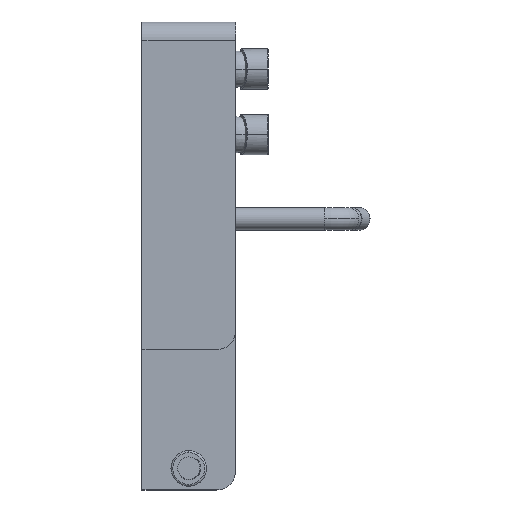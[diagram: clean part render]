
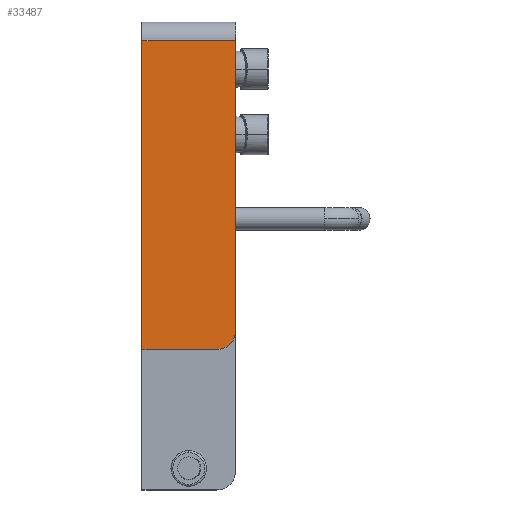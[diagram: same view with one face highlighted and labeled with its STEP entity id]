
A CAD part, top view. The second image highlights one B-rep face of the part: STEP entity #33487.
In plain terms, the highlighted planar face has unit normal (0, 0, 1).
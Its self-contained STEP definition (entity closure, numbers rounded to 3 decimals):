
#30 = DIRECTION ( 'NONE',  ( 1., 0., 0. ) ) ;
#692 = DIRECTION ( 'NONE',  ( 1., 0., 0. ) ) ;
#1217 = CARTESIAN_POINT ( 'NONE',  ( -50., -350., 35. ) ) ;
#1536 = FACE_OUTER_BOUND ( 'NONE', #17699, .T. ) ;
#3485 = CARTESIAN_POINT ( 'NONE',  ( -50., -20., 35. ) ) ;
#4507 = CARTESIAN_POINT ( 'NONE',  ( 50., -20., 35. ) ) ;
#5009 = LINE ( 'NONE', #5375, #24676 ) ;
#5375 = CARTESIAN_POINT ( 'NONE',  ( 50., -20., 35. ) ) ;
#7158 = CARTESIAN_POINT ( 'NONE',  ( 30., -350., 35. ) ) ;
#7424 = CARTESIAN_POINT ( 'NONE',  ( -50., -350., 35. ) ) ;
#9396 = ORIENTED_EDGE ( 'NONE', *, *, #30494, .F. ) ;
#9942 = LINE ( 'NONE', #3485, #46928 ) ;
#11235 = ORIENTED_EDGE ( 'NONE', *, *, #31775, .F. ) ;
#11692 = EDGE_CURVE ( 'NONE', #38642, #20025, #5009, .T. ) ;
#12085 = CARTESIAN_POINT ( 'NONE',  ( -50., -20., 35. ) ) ;
#12400 = ORIENTED_EDGE ( 'NONE', *, *, #13029, .T. ) ;
#13029 = EDGE_CURVE ( 'NONE', #13346, #15686, #23572, .T. ) ;
#13346 = VERTEX_POINT ( 'NONE', #1217 ) ;
#14325 = VECTOR ( 'NONE', #692, 1000. ) ;
#15686 = VERTEX_POINT ( 'NONE', #7158 ) ;
#15801 = DIRECTION ( 'NONE',  ( 1., 0., 0. ) ) ;
#17098 = VERTEX_POINT ( 'NONE', #43267 ) ;
#17699 = EDGE_LOOP ( 'NONE', ( #11235, #25872, #9396, #23182, #12400 ) ) ;
#17760 = CIRCLE ( 'NONE', #38929, 20. ) ;
#17824 = CARTESIAN_POINT ( 'NONE',  ( 30., -330., 35. ) ) ;
#17972 = AXIS2_PLACEMENT_3D ( 'NONE', #12085, #37926, #15801 ) ;
#20025 = VERTEX_POINT ( 'NONE', #46574 ) ;
#21540 = DIRECTION ( 'NONE',  ( 0., -1., 0. ) ) ;
#22285 = PLANE ( 'NONE',  #17972 ) ;
#23182 = ORIENTED_EDGE ( 'NONE', *, *, #44516, .T. ) ;
#23572 = LINE ( 'NONE', #7424, #44385 ) ;
#24676 = VECTOR ( 'NONE', #31230, 1000. ) ;
#25872 = ORIENTED_EDGE ( 'NONE', *, *, #11692, .F. ) ;
#30494 = EDGE_CURVE ( 'NONE', #17098, #38642, #42613, .T. ) ;
#30542 = CARTESIAN_POINT ( 'NONE',  ( -50., -20., 35. ) ) ;
#31230 = DIRECTION ( 'NONE',  ( 0., -1., 0. ) ) ;
#31775 = EDGE_CURVE ( 'NONE', #20025, #15686, #17760, .T. ) ;
#33487 = ADVANCED_FACE ( 'NONE', ( #1536 ), #22285, .T. ) ;
#37926 = DIRECTION ( 'NONE',  ( 0., 0., 1. ) ) ;
#38642 = VERTEX_POINT ( 'NONE', #4507 ) ;
#38929 = AXIS2_PLACEMENT_3D ( 'NONE', #17824, #43632, #21540 ) ;
#40321 = DIRECTION ( 'NONE',  ( 0., -1., 0. ) ) ;
#42613 = LINE ( 'NONE', #30542, #14325 ) ;
#43267 = CARTESIAN_POINT ( 'NONE',  ( -50., -20., 35. ) ) ;
#43632 = DIRECTION ( 'NONE',  ( 0., 0., -1. ) ) ;
#44385 = VECTOR ( 'NONE', #30, 1000. ) ;
#44516 = EDGE_CURVE ( 'NONE', #17098, #13346, #9942, .T. ) ;
#46574 = CARTESIAN_POINT ( 'NONE',  ( 50., -330., 35. ) ) ;
#46928 = VECTOR ( 'NONE', #40321, 1000. ) ;
